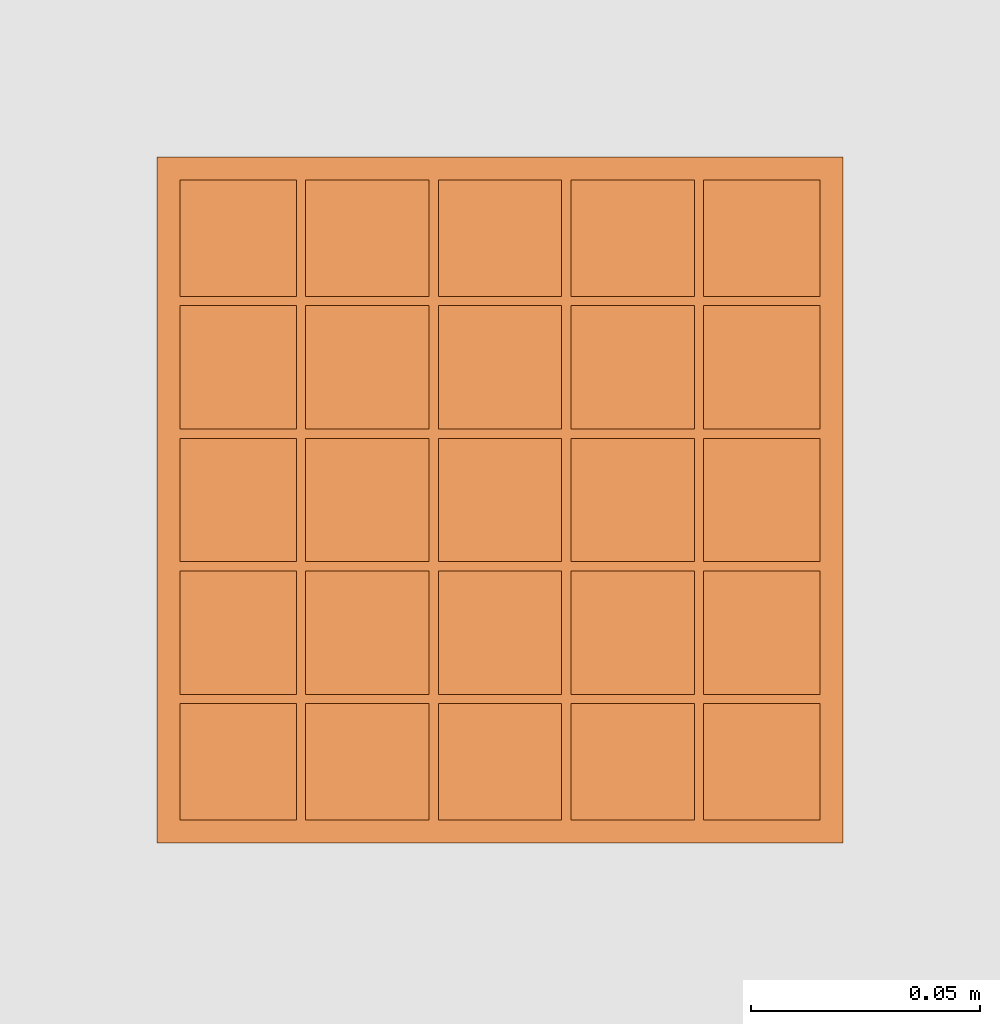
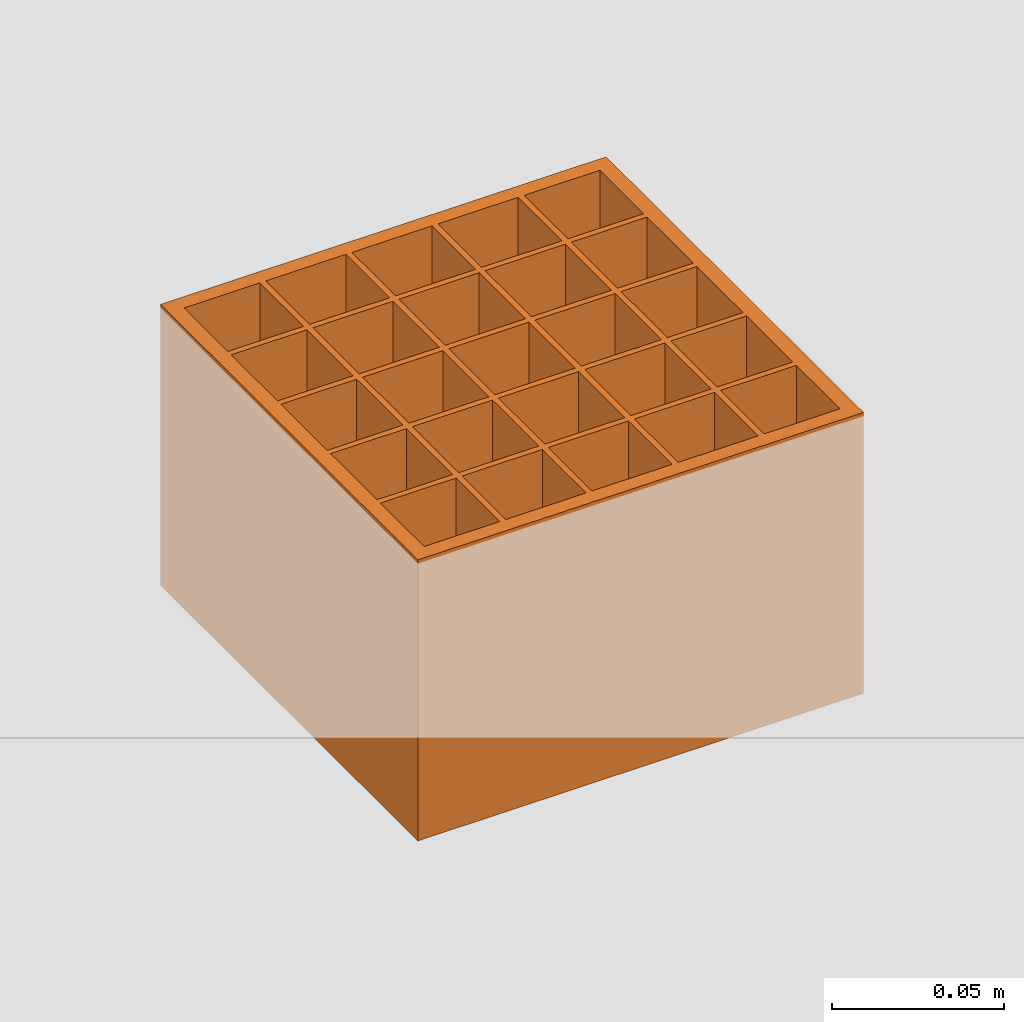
# One storey, part 85 of 112: 1 proxy.
"""IFC2X3 building model written with IfcOpenShell, lengths in millimetres."""

from ifc_helpers import new_model, entity, si_unit, converted_unit, derived_unit, money_unit, direction, frame, origin_with_axes, place, context, subcontext, project, spatial, faceted_brep, source, transform, mapped, type_object, element, save


model = new_model("IFC2X3")

# Units and contexts
model_context = context("Model", 3, precision=0.01, world=origin_with_axes(), true_north=direction((0.0, 1.0)))
body_context = subcontext(model_context, "Body", "Model", "MODEL_VIEW")
ifc_project = project(units=[si_unit("LENGTHUNIT", "METRE", prefix="MILLI"), si_unit("AREAUNIT", "SQUARE_METRE"), si_unit("VOLUMEUNIT", "CUBIC_METRE"), converted_unit("PLANEANGLEUNIT", "DEGREE", entity("IfcPlaneAngleMeasure", 0.0174532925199), si_unit("PLANEANGLEUNIT", "RADIAN"), dimensions=[0, 0, 0, 0, 0, 0, 0]), si_unit("SOLIDANGLEUNIT", "STERADIAN"), money_unit("EUR"), converted_unit("TIMEUNIT", "Year", entity("IfcTimeMeasure", 31556926.0), si_unit("TIMEUNIT", "SECOND"), dimensions=[0, 0, 1, 0, 0, 0, 0]), si_unit("MASSUNIT", "GRAM", prefix="KILO"), si_unit("THERMODYNAMICTEMPERATUREUNIT", "DEGREE_CELSIUS"), si_unit("LUMINOUSINTENSITYUNIT", "LUMEN"), si_unit("ENERGYUNIT", "JOULE", prefix="MEGA"), derived_unit("THERMALCONDUCTANCEUNIT", [(si_unit("POWERUNIT", "WATT"), 1), (si_unit("LENGTHUNIT", "METRE"), -1), (si_unit("THERMODYNAMICTEMPERATUREUNIT", "KELVIN"), -1)]), derived_unit("SPECIFICHEATCAPACITYUNIT", [(si_unit("ENERGYUNIT", "JOULE"), 1), (si_unit("MASSUNIT", "GRAM", prefix="KILO"), -1), (si_unit("THERMODYNAMICTEMPERATUREUNIT", "KELVIN"), -1)]), derived_unit("MASSDENSITYUNIT", [(si_unit("MASSUNIT", "GRAM", prefix="KILO"), 1), (si_unit("VOLUMEUNIT", "CUBIC_METRE"), -1)])], contexts=[model_context])

# Site, building, storey
site_placement = place(None, origin_with_axes())
site = spatial("IfcSite", under=ifc_project, at=site_placement, Name="Politse- ja Piirivalveameti ning Päästeameti ühishoone", CompositionType="ELEMENT")
building_placement = place(site_placement, origin_with_axes())
building = spatial("IfcBuilding", under=site, at=building_placement, Name="Politse- ja Piirivalveameti ning Päästeameti ühishoone", CompositionType="ELEMENT")
storey_placement = place(building_placement, origin_with_axes())
storey = spatial("IfcBuildingStorey", under=building, at=storey_placement, Name="Esimene korrus", CompositionType="ELEMENT", Elevation=0.0)

# Proxy
building_element_proxy_type = type_object("IfcBuildingElementProxyType", Name="Grid 23", PredefinedType="NOTDEFINED")
shared_shape = source(origin_with_axes(), body_context, "Body", "Brep", [
    faceted_brep([(0.0, 0.0, 0.0), (5.0, 5.0, 0.0), (5.0, 5.0, 100.0), (0.0, 0.0, 100.0), (0.0, 150.0, 0.0), (5.0, 145.0, 0.0), (5.0, 119.5, 0.0), (5.0, 117.5, 0.0), (5.0, 90.5, 0.0), (5.0, 88.5, 0.0), (5.0, 61.5, 0.0), (5.0, 59.5, 0.0), (5.0, 32.5, 0.0), (5.0, 30.5, 0.0), (5.0, 30.5, 100.0), (5.0, 32.5, 100.0), (5.0, 59.5, 100.0), (5.0, 61.5, 100.0), (5.0, 88.5, 100.0), (5.0, 90.5, 100.0), (5.0, 117.5, 100.0), (5.0, 119.5, 100.0), (5.0, 145.0, 100.0), (0.0, 150.0, 100.0)], [[[0, 1, 2, 3]], [[0, 4, 5, 6, 7, 8, 9, 10, 11, 12, 13, 1]], [[1, 13, 14, 2]], [[3, 2, 14, 15, 16, 17, 18, 19, 20, 21, 22, 23]], [[4, 0, 3, 23]], [[5, 4, 23, 22]], [[6, 5, 22, 21]], [[7, 6, 21, 20]], [[8, 7, 20, 19]], [[9, 8, 19, 18]], [[10, 9, 18, 17]], [[11, 10, 17, 16]], [[12, 11, 16, 15]], [[13, 12, 15, 14]]]),
    faceted_brep([(150.0, 150.0, 0.0), (145.0, 145.0, 0.0), (145.0, 145.0, 100.0), (150.0, 150.0, 100.0), (150.0, 0.0, 0.0), (145.0, 5.0, 0.0), (145.0, 30.5, 0.0), (145.0, 32.5, 0.0), (145.0, 59.5, 0.0), (145.0, 61.5, 0.0), (145.0, 88.5, 0.0), (145.0, 90.5, 0.0), (145.0, 117.5, 0.0), (145.0, 119.5, 0.0), (145.0, 119.5, 100.0), (145.0, 117.5, 100.0), (145.0, 90.5, 100.0), (145.0, 88.5, 100.0), (145.0, 61.5, 100.0), (145.0, 59.5, 100.0), (145.0, 32.5, 100.0), (145.0, 30.5, 100.0), (145.0, 5.0, 100.0), (150.0, 0.0, 100.0)], [[[0, 1, 2, 3]], [[0, 4, 5, 6, 7, 8, 9, 10, 11, 12, 13, 1]], [[1, 13, 14, 2]], [[3, 2, 14, 15, 16, 17, 18, 19, 20, 21, 22, 23]], [[4, 0, 3, 23]], [[5, 4, 23, 22]], [[6, 5, 22, 21]], [[7, 6, 21, 20]], [[8, 7, 20, 19]], [[9, 8, 19, 18]], [[10, 9, 18, 17]], [[11, 10, 17, 16]], [[12, 11, 16, 15]], [[13, 12, 15, 14]]]),
    faceted_brep([(150.0, 0.0, 0.0), (145.0, 5.0, 0.0), (145.0, 5.0, 100.0), (150.0, 0.0, 100.0), (0.0, 0.0, 0.0), (5.0, 5.0, 0.0), (30.5, 5.0, 0.0), (32.5, 5.0, 0.0), (59.5, 5.0, 0.0), (61.5, 5.0, 0.0), (88.5, 5.0, 0.0), (90.5, 5.0, 0.0), (117.5, 5.0, 0.0), (119.5, 5.0, 0.0), (119.5, 5.0, 100.0), (117.5, 5.0, 100.0), (90.5, 5.0, 100.0), (88.5, 5.0, 100.0), (61.5, 5.0, 100.0), (59.5, 5.0, 100.0), (32.5, 5.0, 100.0), (30.5, 5.0, 100.0), (5.0, 5.0, 100.0), (0.0, 0.0, 100.0)], [[[0, 1, 2, 3]], [[0, 4, 5, 6, 7, 8, 9, 10, 11, 12, 13, 1]], [[1, 13, 14, 2]], [[3, 2, 14, 15, 16, 17, 18, 19, 20, 21, 22, 23]], [[4, 0, 3, 23]], [[5, 4, 23, 22]], [[6, 5, 22, 21]], [[7, 6, 21, 20]], [[8, 7, 20, 19]], [[9, 8, 19, 18]], [[10, 9, 18, 17]], [[11, 10, 17, 16]], [[12, 11, 16, 15]], [[13, 12, 15, 14]]]),
    faceted_brep([(0.0, 150.0, 0.0), (5.0, 145.0, 0.0), (5.0, 145.0, 100.0), (0.0, 150.0, 100.0), (150.0, 150.0, 0.0), (145.0, 145.0, 0.0), (119.5, 145.0, 0.0), (117.5, 145.0, 0.0), (90.5, 145.0, 0.0), (88.5, 145.0, 0.0), (61.5, 145.0, 0.0), (59.5, 145.0, 0.0), (32.5, 145.0, 0.0), (30.5, 145.0, 0.0), (30.5, 145.0, 100.0), (32.5, 145.0, 100.0), (59.5, 145.0, 100.0), (61.5, 145.0, 100.0), (88.5, 145.0, 100.0), (90.5, 145.0, 100.0), (117.5, 145.0, 100.0), (119.5, 145.0, 100.0), (145.0, 145.0, 100.0), (150.0, 150.0, 100.0)], [[[0, 1, 2, 3]], [[0, 4, 5, 6, 7, 8, 9, 10, 11, 12, 13, 1]], [[1, 13, 14, 2]], [[3, 2, 14, 15, 16, 17, 18, 19, 20, 21, 22, 23]], [[4, 0, 3, 23]], [[5, 4, 23, 22]], [[6, 5, 22, 21]], [[7, 6, 21, 20]], [[8, 7, 20, 19]], [[9, 8, 19, 18]], [[10, 9, 18, 17]], [[11, 10, 17, 16]], [[12, 11, 16, 15]], [[13, 12, 15, 14]]]),
    faceted_brep([(30.5, 5.0, 0.0), (32.5, 5.0, 0.0), (32.5, 5.0, 100.0), (30.5, 5.0, 100.0), (30.5, 30.5, 0.0), (30.5, 32.5, 0.0), (30.5, 59.5, 0.0), (30.5, 61.5, 0.0), (30.5, 88.5, 0.0), (30.5, 90.5, 0.0), (30.5, 117.5, 0.0), (30.5, 119.5, 0.0), (30.5, 145.0, 0.0), (32.5, 145.0, 0.0), (32.5, 119.5, 0.0), (32.5, 117.5, 0.0), (32.5, 90.5, 0.0), (32.5, 88.5, 0.0), (32.5, 61.5, 0.0), (32.5, 59.5, 0.0), (32.5, 32.5, 0.0), (32.5, 30.5, 0.0), (32.5, 30.5, 100.0), (32.5, 32.5, 100.0), (32.5, 59.5, 100.0), (32.5, 61.5, 100.0), (32.5, 88.5, 100.0), (32.5, 90.5, 100.0), (32.5, 117.5, 100.0), (32.5, 119.5, 100.0), (32.5, 145.0, 100.0), (30.5, 145.0, 100.0), (30.5, 119.5, 100.0), (30.5, 117.5, 100.0), (30.5, 90.5, 100.0), (30.5, 88.5, 100.0), (30.5, 61.5, 100.0), (30.5, 59.5, 100.0), (30.5, 32.5, 100.0), (30.5, 30.5, 100.0)], [[[0, 1, 2, 3]], [[0, 4, 5, 6, 7, 8, 9, 10, 11, 12, 13, 14, 15, 16, 17, 18, 19, 20, 21, 1]], [[1, 21, 22, 2]], [[3, 2, 22, 23, 24, 25, 26, 27, 28, 29, 30, 31, 32, 33, 34, 35, 36, 37, 38, 39]], [[4, 0, 3, 39]], [[5, 4, 39, 38]], [[6, 5, 38, 37]], [[7, 6, 37, 36]], [[8, 7, 36, 35]], [[9, 8, 35, 34]], [[10, 9, 34, 33]], [[11, 10, 33, 32]], [[12, 11, 32, 31]], [[13, 12, 31, 30]], [[14, 13, 30, 29]], [[15, 14, 29, 28]], [[16, 15, 28, 27]], [[17, 16, 27, 26]], [[18, 17, 26, 25]], [[19, 18, 25, 24]], [[20, 19, 24, 23]], [[21, 20, 23, 22]]]),
    faceted_brep([(59.5, 5.0, 0.0), (61.5, 5.0, 0.0), (61.5, 5.0, 100.0), (59.5, 5.0, 100.0), (59.5, 30.5, 0.0), (59.5, 32.5, 0.0), (59.5, 59.5, 0.0), (59.5, 61.5, 0.0), (59.5, 88.5, 0.0), (59.5, 90.5, 0.0), (59.5, 117.5, 0.0), (59.5, 119.5, 0.0), (59.5, 145.0, 0.0), (61.5, 145.0, 0.0), (61.5, 119.5, 0.0), (61.5, 117.5, 0.0), (61.5, 90.5, 0.0), (61.5, 88.5, 0.0), (61.5, 61.5, 0.0), (61.5, 59.5, 0.0), (61.5, 32.5, 0.0), (61.5, 30.5, 0.0), (61.5, 30.5, 100.0), (61.5, 32.5, 100.0), (61.5, 59.5, 100.0), (61.5, 61.5, 100.0), (61.5, 88.5, 100.0), (61.5, 90.5, 100.0), (61.5, 117.5, 100.0), (61.5, 119.5, 100.0), (61.5, 145.0, 100.0), (59.5, 145.0, 100.0), (59.5, 119.5, 100.0), (59.5, 117.5, 100.0), (59.5, 90.5, 100.0), (59.5, 88.5, 100.0), (59.5, 61.5, 100.0), (59.5, 59.5, 100.0), (59.5, 32.5, 100.0), (59.5, 30.5, 100.0)], [[[0, 1, 2, 3]], [[0, 4, 5, 6, 7, 8, 9, 10, 11, 12, 13, 14, 15, 16, 17, 18, 19, 20, 21, 1]], [[1, 21, 22, 2]], [[3, 2, 22, 23, 24, 25, 26, 27, 28, 29, 30, 31, 32, 33, 34, 35, 36, 37, 38, 39]], [[4, 0, 3, 39]], [[5, 4, 39, 38]], [[6, 5, 38, 37]], [[7, 6, 37, 36]], [[8, 7, 36, 35]], [[9, 8, 35, 34]], [[10, 9, 34, 33]], [[11, 10, 33, 32]], [[12, 11, 32, 31]], [[13, 12, 31, 30]], [[14, 13, 30, 29]], [[15, 14, 29, 28]], [[16, 15, 28, 27]], [[17, 16, 27, 26]], [[18, 17, 26, 25]], [[19, 18, 25, 24]], [[20, 19, 24, 23]], [[21, 20, 23, 22]]]),
    faceted_brep([(88.5, 5.0, 0.0), (90.5, 5.0, 0.0), (90.5, 5.0, 100.0), (88.5, 5.0, 100.0), (88.5, 30.5, 0.0), (88.5, 32.5, 0.0), (88.5, 59.5, 0.0), (88.5, 61.5, 0.0), (88.5, 88.5, 0.0), (88.5, 90.5, 0.0), (88.5, 117.5, 0.0), (88.5, 119.5, 0.0), (88.5, 145.0, 0.0), (90.5, 145.0, 0.0), (90.5, 119.5, 0.0), (90.5, 117.5, 0.0), (90.5, 90.5, 0.0), (90.5, 88.5, 0.0), (90.5, 61.5, 0.0), (90.5, 59.5, 0.0), (90.5, 32.5, 0.0), (90.5, 30.5, 0.0), (90.5, 30.5, 100.0), (90.5, 32.5, 100.0), (90.5, 59.5, 100.0), (90.5, 61.5, 100.0), (90.5, 88.5, 100.0), (90.5, 90.5, 100.0), (90.5, 117.5, 100.0), (90.5, 119.5, 100.0), (90.5, 145.0, 100.0), (88.5, 145.0, 100.0), (88.5, 119.5, 100.0), (88.5, 117.5, 100.0), (88.5, 90.5, 100.0), (88.5, 88.5, 100.0), (88.5, 61.5, 100.0), (88.5, 59.5, 100.0), (88.5, 32.5, 100.0), (88.5, 30.5, 100.0)], [[[0, 1, 2, 3]], [[0, 4, 5, 6, 7, 8, 9, 10, 11, 12, 13, 14, 15, 16, 17, 18, 19, 20, 21, 1]], [[1, 21, 22, 2]], [[3, 2, 22, 23, 24, 25, 26, 27, 28, 29, 30, 31, 32, 33, 34, 35, 36, 37, 38, 39]], [[4, 0, 3, 39]], [[5, 4, 39, 38]], [[6, 5, 38, 37]], [[7, 6, 37, 36]], [[8, 7, 36, 35]], [[9, 8, 35, 34]], [[10, 9, 34, 33]], [[11, 10, 33, 32]], [[12, 11, 32, 31]], [[13, 12, 31, 30]], [[14, 13, 30, 29]], [[15, 14, 29, 28]], [[16, 15, 28, 27]], [[17, 16, 27, 26]], [[18, 17, 26, 25]], [[19, 18, 25, 24]], [[20, 19, 24, 23]], [[21, 20, 23, 22]]]),
    faceted_brep([(117.5, 5.0, 0.0), (119.5, 5.0, 0.0), (119.5, 5.0, 100.0), (117.5, 5.0, 100.0), (117.5, 30.5, 0.0), (117.5, 32.5, 0.0), (117.5, 59.5, 0.0), (117.5, 61.5, 0.0), (117.5, 88.5, 0.0), (117.5, 90.5, 0.0), (117.5, 117.5, 0.0), (117.5, 119.5, 0.0), (117.5, 145.0, 0.0), (119.5, 145.0, 0.0), (119.5, 119.5, 0.0), (119.5, 117.5, 0.0), (119.5, 90.5, 0.0), (119.5, 88.5, 0.0), (119.5, 61.5, 0.0), (119.5, 59.5, 0.0), (119.5, 32.5, 0.0), (119.5, 30.5, 0.0), (119.5, 30.5, 100.0), (119.5, 32.5, 100.0), (119.5, 59.5, 100.0), (119.5, 61.5, 100.0), (119.5, 88.5, 100.0), (119.5, 90.5, 100.0), (119.5, 117.5, 100.0), (119.5, 119.5, 100.0), (119.5, 145.0, 100.0), (117.5, 145.0, 100.0), (117.5, 119.5, 100.0), (117.5, 117.5, 100.0), (117.5, 90.5, 100.0), (117.5, 88.5, 100.0), (117.5, 61.5, 100.0), (117.5, 59.5, 100.0), (117.5, 32.5, 100.0), (117.5, 30.5, 100.0)], [[[0, 1, 2, 3]], [[0, 4, 5, 6, 7, 8, 9, 10, 11, 12, 13, 14, 15, 16, 17, 18, 19, 20, 21, 1]], [[1, 21, 22, 2]], [[3, 2, 22, 23, 24, 25, 26, 27, 28, 29, 30, 31, 32, 33, 34, 35, 36, 37, 38, 39]], [[4, 0, 3, 39]], [[5, 4, 39, 38]], [[6, 5, 38, 37]], [[7, 6, 37, 36]], [[8, 7, 36, 35]], [[9, 8, 35, 34]], [[10, 9, 34, 33]], [[11, 10, 33, 32]], [[12, 11, 32, 31]], [[13, 12, 31, 30]], [[14, 13, 30, 29]], [[15, 14, 29, 28]], [[16, 15, 28, 27]], [[17, 16, 27, 26]], [[18, 17, 26, 25]], [[19, 18, 25, 24]], [[20, 19, 24, 23]], [[21, 20, 23, 22]]]),
    faceted_brep([(30.5, 30.5, 0.0), (30.5, 32.5, 0.0), (30.5, 32.5, 100.0), (30.5, 30.5, 100.0), (5.0, 30.5, 0.0), (5.0, 32.5, 0.0), (5.0, 32.5, 100.0), (5.0, 30.5, 100.0)], [[[0, 1, 2, 3]], [[0, 4, 5, 1]], [[1, 5, 6, 2]], [[3, 2, 6, 7]], [[4, 0, 3, 7]], [[5, 4, 7, 6]]]),
    faceted_brep([(30.5, 59.5, 0.0), (30.5, 61.5, 0.0), (30.5, 61.5, 100.0), (30.5, 59.5, 100.0), (5.0, 59.5, 0.0), (5.0, 61.5, 0.0), (5.0, 61.5, 100.0), (5.0, 59.5, 100.0)], [[[0, 1, 2, 3]], [[0, 4, 5, 1]], [[1, 5, 6, 2]], [[3, 2, 6, 7]], [[4, 0, 3, 7]], [[5, 4, 7, 6]]]),
    faceted_brep([(30.5, 88.5, 0.0), (30.5, 90.5, 0.0), (30.5, 90.5, 100.0), (30.5, 88.5, 100.0), (5.0, 88.5, 0.0), (5.0, 90.5, 0.0), (5.0, 90.5, 100.0), (5.0, 88.5, 100.0)], [[[0, 1, 2, 3]], [[0, 4, 5, 1]], [[1, 5, 6, 2]], [[3, 2, 6, 7]], [[4, 0, 3, 7]], [[5, 4, 7, 6]]]),
    faceted_brep([(30.5, 117.5, 0.0), (30.5, 119.5, 0.0), (30.5, 119.5, 100.0), (30.5, 117.5, 100.0), (5.0, 117.5, 0.0), (5.0, 119.5, 0.0), (5.0, 119.5, 100.0), (5.0, 117.5, 100.0)], [[[0, 1, 2, 3]], [[0, 4, 5, 1]], [[1, 5, 6, 2]], [[3, 2, 6, 7]], [[4, 0, 3, 7]], [[5, 4, 7, 6]]]),
    faceted_brep([(59.5, 30.5, 0.0), (59.5, 32.5, 0.0), (59.5, 32.5, 100.0), (59.5, 30.5, 100.0), (32.5, 30.5, 0.0), (32.5, 32.5, 0.0), (32.5, 32.5, 100.0), (32.5, 30.5, 100.0)], [[[0, 1, 2, 3]], [[0, 4, 5, 1]], [[1, 5, 6, 2]], [[3, 2, 6, 7]], [[4, 0, 3, 7]], [[5, 4, 7, 6]]]),
    faceted_brep([(59.5, 59.5, 0.0), (59.5, 61.5, 0.0), (59.5, 61.5, 100.0), (59.5, 59.5, 100.0), (32.5, 59.5, 0.0), (32.5, 61.5, 0.0), (32.5, 61.5, 100.0), (32.5, 59.5, 100.0)], [[[0, 1, 2, 3]], [[0, 4, 5, 1]], [[1, 5, 6, 2]], [[3, 2, 6, 7]], [[4, 0, 3, 7]], [[5, 4, 7, 6]]]),
    faceted_brep([(59.5, 88.5, 0.0), (59.5, 90.5, 0.0), (59.5, 90.5, 100.0), (59.5, 88.5, 100.0), (32.5, 88.5, 0.0), (32.5, 90.5, 0.0), (32.5, 90.5, 100.0), (32.5, 88.5, 100.0)], [[[0, 1, 2, 3]], [[0, 4, 5, 1]], [[1, 5, 6, 2]], [[3, 2, 6, 7]], [[4, 0, 3, 7]], [[5, 4, 7, 6]]]),
    faceted_brep([(59.5, 117.5, 0.0), (59.5, 119.5, 0.0), (59.5, 119.5, 100.0), (59.5, 117.5, 100.0), (32.5, 117.5, 0.0), (32.5, 119.5, 0.0), (32.5, 119.5, 100.0), (32.5, 117.5, 100.0)], [[[0, 1, 2, 3]], [[0, 4, 5, 1]], [[1, 5, 6, 2]], [[3, 2, 6, 7]], [[4, 0, 3, 7]], [[5, 4, 7, 6]]]),
    faceted_brep([(88.5, 30.5, 0.0), (88.5, 32.5, 0.0), (88.5, 32.5, 100.0), (88.5, 30.5, 100.0), (61.5, 30.5, 0.0), (61.5, 32.5, 0.0), (61.5, 32.5, 100.0), (61.5, 30.5, 100.0)], [[[0, 1, 2, 3]], [[0, 4, 5, 1]], [[1, 5, 6, 2]], [[3, 2, 6, 7]], [[4, 0, 3, 7]], [[5, 4, 7, 6]]]),
    faceted_brep([(88.5, 59.5, 0.0), (88.5, 61.5, 0.0), (88.5, 61.5, 100.0), (88.5, 59.5, 100.0), (61.5, 59.5, 0.0), (61.5, 61.5, 0.0), (61.5, 61.5, 100.0), (61.5, 59.5, 100.0)], [[[0, 1, 2, 3]], [[0, 4, 5, 1]], [[1, 5, 6, 2]], [[3, 2, 6, 7]], [[4, 0, 3, 7]], [[5, 4, 7, 6]]]),
    faceted_brep([(88.5, 88.5, 0.0), (88.5, 90.5, 0.0), (88.5, 90.5, 100.0), (88.5, 88.5, 100.0), (61.5, 88.5, 0.0), (61.5, 90.5, 0.0), (61.5, 90.5, 100.0), (61.5, 88.5, 100.0)], [[[0, 1, 2, 3]], [[0, 4, 5, 1]], [[1, 5, 6, 2]], [[3, 2, 6, 7]], [[4, 0, 3, 7]], [[5, 4, 7, 6]]]),
    faceted_brep([(88.5, 117.5, 0.0), (88.5, 119.5, 0.0), (88.5, 119.5, 100.0), (88.5, 117.5, 100.0), (61.5, 117.5, 0.0), (61.5, 119.5, 0.0), (61.5, 119.5, 100.0), (61.5, 117.5, 100.0)], [[[0, 1, 2, 3]], [[0, 4, 5, 1]], [[1, 5, 6, 2]], [[3, 2, 6, 7]], [[4, 0, 3, 7]], [[5, 4, 7, 6]]]),
    faceted_brep([(117.5, 30.5, 0.0), (117.5, 32.5, 0.0), (117.5, 32.5, 100.0), (117.5, 30.5, 100.0), (90.5, 30.5, 0.0), (90.5, 32.5, 0.0), (90.5, 32.5, 100.0), (90.5, 30.5, 100.0)], [[[0, 1, 2, 3]], [[0, 4, 5, 1]], [[1, 5, 6, 2]], [[3, 2, 6, 7]], [[4, 0, 3, 7]], [[5, 4, 7, 6]]]),
    faceted_brep([(117.5, 59.5, 0.0), (117.5, 61.5, 0.0), (117.5, 61.5, 100.0), (117.5, 59.5, 100.0), (90.5, 59.5, 0.0), (90.5, 61.5, 0.0), (90.5, 61.5, 100.0), (90.5, 59.5, 100.0)], [[[0, 1, 2, 3]], [[0, 4, 5, 1]], [[1, 5, 6, 2]], [[3, 2, 6, 7]], [[4, 0, 3, 7]], [[5, 4, 7, 6]]]),
    faceted_brep([(117.5, 88.5, 0.0), (117.5, 90.5, 0.0), (117.5, 90.5, 100.0), (117.5, 88.5, 100.0), (90.5, 88.5, 0.0), (90.5, 90.5, 0.0), (90.5, 90.5, 100.0), (90.5, 88.5, 100.0)], [[[0, 1, 2, 3]], [[0, 4, 5, 1]], [[1, 5, 6, 2]], [[3, 2, 6, 7]], [[4, 0, 3, 7]], [[5, 4, 7, 6]]]),
    faceted_brep([(117.5, 117.5, 0.0), (117.5, 119.5, 0.0), (117.5, 119.5, 100.0), (117.5, 117.5, 100.0), (90.5, 117.5, 0.0), (90.5, 119.5, 0.0), (90.5, 119.5, 100.0), (90.5, 117.5, 100.0)], [[[0, 1, 2, 3]], [[0, 4, 5, 1]], [[1, 5, 6, 2]], [[3, 2, 6, 7]], [[4, 0, 3, 7]], [[5, 4, 7, 6]]]),
    faceted_brep([(145.0, 30.5, 0.0), (145.0, 32.5, 0.0), (145.0, 32.5, 100.0), (145.0, 30.5, 100.0), (119.5, 30.5, 0.0), (119.5, 32.5, 0.0), (119.5, 32.5, 100.0), (119.5, 30.5, 100.0)], [[[0, 1, 2, 3]], [[0, 4, 5, 1]], [[1, 5, 6, 2]], [[3, 2, 6, 7]], [[4, 0, 3, 7]], [[5, 4, 7, 6]]]),
    faceted_brep([(145.0, 59.5, 0.0), (145.0, 61.5, 0.0), (145.0, 61.5, 100.0), (145.0, 59.5, 100.0), (119.5, 59.5, 0.0), (119.5, 61.5, 0.0), (119.5, 61.5, 100.0), (119.5, 59.5, 100.0)], [[[0, 1, 2, 3]], [[0, 4, 5, 1]], [[1, 5, 6, 2]], [[3, 2, 6, 7]], [[4, 0, 3, 7]], [[5, 4, 7, 6]]]),
    faceted_brep([(145.0, 88.5, 0.0), (145.0, 90.5, 0.0), (145.0, 90.5, 100.0), (145.0, 88.5, 100.0), (119.5, 88.5, 0.0), (119.5, 90.5, 0.0), (119.5, 90.5, 100.0), (119.5, 88.5, 100.0)], [[[0, 1, 2, 3]], [[0, 4, 5, 1]], [[1, 5, 6, 2]], [[3, 2, 6, 7]], [[4, 0, 3, 7]], [[5, 4, 7, 6]]]),
    faceted_brep([(145.0, 117.5, 0.0), (145.0, 119.5, 0.0), (145.0, 119.5, 100.0), (145.0, 117.5, 100.0), (119.5, 117.5, 0.0), (119.5, 119.5, 0.0), (119.5, 119.5, 100.0), (119.5, 117.5, 100.0)], [[[0, 1, 2, 3]], [[0, 4, 5, 1]], [[1, 5, 6, 2]], [[3, 2, 6, 7]], [[4, 0, 3, 7]], [[5, 4, 7, 6]]]),
    faceted_brep([(5.0, 5.0, 43.65), (30.5, 5.0, 43.65), (30.5, 5.0, 56.35), (5.0, 5.0, 56.35), (5.0, 30.5, 43.65), (30.5, 30.5, 43.65), (30.5, 30.5, 56.35), (5.0, 30.5, 56.35)], [[[0, 1, 2, 3]], [[0, 4, 5, 1]], [[1, 5, 6, 2]], [[3, 2, 6, 7]], [[4, 0, 3, 7]], [[5, 4, 7, 6]]]),
    faceted_brep([(5.0, 32.5, 43.65), (30.5, 32.5, 43.65), (30.5, 32.5, 56.35), (5.0, 32.5, 56.35), (5.0, 59.5, 43.65), (30.5, 59.5, 43.65), (30.5, 59.5, 56.35), (5.0, 59.5, 56.35)], [[[0, 1, 2, 3]], [[0, 4, 5, 1]], [[1, 5, 6, 2]], [[3, 2, 6, 7]], [[4, 0, 3, 7]], [[5, 4, 7, 6]]]),
    faceted_brep([(5.0, 61.5, 43.65), (30.5, 61.5, 43.65), (30.5, 61.5, 56.35), (5.0, 61.5, 56.35), (5.0, 88.5, 43.65), (30.5, 88.5, 43.65), (30.5, 88.5, 56.35), (5.0, 88.5, 56.35)], [[[0, 1, 2, 3]], [[0, 4, 5, 1]], [[1, 5, 6, 2]], [[3, 2, 6, 7]], [[4, 0, 3, 7]], [[5, 4, 7, 6]]]),
    faceted_brep([(5.0, 90.5, 43.65), (30.5, 90.5, 43.65), (30.5, 90.5, 56.35), (5.0, 90.5, 56.35), (5.0, 117.5, 43.65), (30.5, 117.5, 43.65), (30.5, 117.5, 56.35), (5.0, 117.5, 56.35)], [[[0, 1, 2, 3]], [[0, 4, 5, 1]], [[1, 5, 6, 2]], [[3, 2, 6, 7]], [[4, 0, 3, 7]], [[5, 4, 7, 6]]]),
    faceted_brep([(5.0, 119.5, 43.65), (30.5, 119.5, 43.65), (30.5, 119.5, 56.35), (5.0, 119.5, 56.35), (5.0, 145.0, 43.65), (30.5, 145.0, 43.65), (30.5, 145.0, 56.35), (5.0, 145.0, 56.35)], [[[0, 1, 2, 3]], [[0, 4, 5, 1]], [[1, 5, 6, 2]], [[3, 2, 6, 7]], [[4, 0, 3, 7]], [[5, 4, 7, 6]]]),
    faceted_brep([(32.5, 5.0, 43.65), (59.5, 5.0, 43.65), (59.5, 5.0, 56.35), (32.5, 5.0, 56.35), (32.5, 30.5, 43.65), (59.5, 30.5, 43.65), (59.5, 30.5, 56.35), (32.5, 30.5, 56.35)], [[[0, 1, 2, 3]], [[0, 4, 5, 1]], [[1, 5, 6, 2]], [[3, 2, 6, 7]], [[4, 0, 3, 7]], [[5, 4, 7, 6]]]),
    faceted_brep([(32.5, 32.5, 43.65), (59.5, 32.5, 43.65), (59.5, 32.5, 56.35), (32.5, 32.5, 56.35), (32.5, 59.5, 43.65), (59.5, 59.5, 43.65), (59.5, 59.5, 56.35), (32.5, 59.5, 56.35)], [[[0, 1, 2, 3]], [[0, 4, 5, 1]], [[1, 5, 6, 2]], [[3, 2, 6, 7]], [[4, 0, 3, 7]], [[5, 4, 7, 6]]]),
    faceted_brep([(32.5, 61.5, 43.65), (59.5, 61.5, 43.65), (59.5, 61.5, 56.35), (32.5, 61.5, 56.35), (32.5, 88.5, 43.65), (59.5, 88.5, 43.65), (59.5, 88.5, 56.35), (32.5, 88.5, 56.35)], [[[0, 1, 2, 3]], [[0, 4, 5, 1]], [[1, 5, 6, 2]], [[3, 2, 6, 7]], [[4, 0, 3, 7]], [[5, 4, 7, 6]]]),
    faceted_brep([(32.5, 90.5, 43.65), (59.5, 90.5, 43.65), (59.5, 90.5, 56.35), (32.5, 90.5, 56.35), (32.5, 117.5, 43.65), (59.5, 117.5, 43.65), (59.5, 117.5, 56.35), (32.5, 117.5, 56.35)], [[[0, 1, 2, 3]], [[0, 4, 5, 1]], [[1, 5, 6, 2]], [[3, 2, 6, 7]], [[4, 0, 3, 7]], [[5, 4, 7, 6]]]),
    faceted_brep([(32.5, 119.5, 43.65), (59.5, 119.5, 43.65), (59.5, 119.5, 56.35), (32.5, 119.5, 56.35), (32.5, 145.0, 43.65), (59.5, 145.0, 43.65), (59.5, 145.0, 56.35), (32.5, 145.0, 56.35)], [[[0, 1, 2, 3]], [[0, 4, 5, 1]], [[1, 5, 6, 2]], [[3, 2, 6, 7]], [[4, 0, 3, 7]], [[5, 4, 7, 6]]]),
    faceted_brep([(61.5, 5.0, 43.65), (88.5, 5.0, 43.65), (88.5, 5.0, 56.35), (61.5, 5.0, 56.35), (61.5, 30.5, 43.65), (88.5, 30.5, 43.65), (88.5, 30.5, 56.35), (61.5, 30.5, 56.35)], [[[0, 1, 2, 3]], [[0, 4, 5, 1]], [[1, 5, 6, 2]], [[3, 2, 6, 7]], [[4, 0, 3, 7]], [[5, 4, 7, 6]]]),
    faceted_brep([(61.5, 32.5, 43.65), (88.5, 32.5, 43.65), (88.5, 32.5, 56.35), (61.5, 32.5, 56.35), (61.5, 59.5, 43.65), (88.5, 59.5, 43.65), (88.5, 59.5, 56.35), (61.5, 59.5, 56.35)], [[[0, 1, 2, 3]], [[0, 4, 5, 1]], [[1, 5, 6, 2]], [[3, 2, 6, 7]], [[4, 0, 3, 7]], [[5, 4, 7, 6]]]),
    faceted_brep([(61.5, 61.5, 43.65), (88.5, 61.5, 43.65), (88.5, 61.5, 56.35), (61.5, 61.5, 56.35), (61.5, 88.5, 43.65), (88.5, 88.5, 43.65), (88.5, 88.5, 56.35), (61.5, 88.5, 56.35)], [[[0, 1, 2, 3]], [[0, 4, 5, 1]], [[1, 5, 6, 2]], [[3, 2, 6, 7]], [[4, 0, 3, 7]], [[5, 4, 7, 6]]]),
    faceted_brep([(61.5, 90.5, 43.65), (88.5, 90.5, 43.65), (88.5, 90.5, 56.35), (61.5, 90.5, 56.35), (61.5, 117.5, 43.65), (88.5, 117.5, 43.65), (88.5, 117.5, 56.35), (61.5, 117.5, 56.35)], [[[0, 1, 2, 3]], [[0, 4, 5, 1]], [[1, 5, 6, 2]], [[3, 2, 6, 7]], [[4, 0, 3, 7]], [[5, 4, 7, 6]]]),
    faceted_brep([(61.5, 119.5, 43.65), (88.5, 119.5, 43.65), (88.5, 119.5, 56.35), (61.5, 119.5, 56.35), (61.5, 145.0, 43.65), (88.5, 145.0, 43.65), (88.5, 145.0, 56.35), (61.5, 145.0, 56.35)], [[[0, 1, 2, 3]], [[0, 4, 5, 1]], [[1, 5, 6, 2]], [[3, 2, 6, 7]], [[4, 0, 3, 7]], [[5, 4, 7, 6]]]),
    faceted_brep([(90.5, 5.0, 43.65), (117.5, 5.0, 43.65), (117.5, 5.0, 56.35), (90.5, 5.0, 56.35), (90.5, 30.5, 43.65), (117.5, 30.5, 43.65), (117.5, 30.5, 56.35), (90.5, 30.5, 56.35)], [[[0, 1, 2, 3]], [[0, 4, 5, 1]], [[1, 5, 6, 2]], [[3, 2, 6, 7]], [[4, 0, 3, 7]], [[5, 4, 7, 6]]]),
    faceted_brep([(90.5, 32.5, 43.65), (117.5, 32.5, 43.65), (117.5, 32.5, 56.35), (90.5, 32.5, 56.35), (90.5, 59.5, 43.65), (117.5, 59.5, 43.65), (117.5, 59.5, 56.35), (90.5, 59.5, 56.35)], [[[0, 1, 2, 3]], [[0, 4, 5, 1]], [[1, 5, 6, 2]], [[3, 2, 6, 7]], [[4, 0, 3, 7]], [[5, 4, 7, 6]]]),
    faceted_brep([(90.5, 61.5, 43.65), (117.5, 61.5, 43.65), (117.5, 61.5, 56.35), (90.5, 61.5, 56.35), (90.5, 88.5, 43.65), (117.5, 88.5, 43.65), (117.5, 88.5, 56.35), (90.5, 88.5, 56.35)], [[[0, 1, 2, 3]], [[0, 4, 5, 1]], [[1, 5, 6, 2]], [[3, 2, 6, 7]], [[4, 0, 3, 7]], [[5, 4, 7, 6]]]),
    faceted_brep([(90.5, 90.5, 43.65), (117.5, 90.5, 43.65), (117.5, 90.5, 56.35), (90.5, 90.5, 56.35), (90.5, 117.5, 43.65), (117.5, 117.5, 43.65), (117.5, 117.5, 56.35), (90.5, 117.5, 56.35)], [[[0, 1, 2, 3]], [[0, 4, 5, 1]], [[1, 5, 6, 2]], [[3, 2, 6, 7]], [[4, 0, 3, 7]], [[5, 4, 7, 6]]]),
    faceted_brep([(90.5, 119.5, 43.65), (117.5, 119.5, 43.65), (117.5, 119.5, 56.35), (90.5, 119.5, 56.35), (90.5, 145.0, 43.65), (117.5, 145.0, 43.65), (117.5, 145.0, 56.35), (90.5, 145.0, 56.35)], [[[0, 1, 2, 3]], [[0, 4, 5, 1]], [[1, 5, 6, 2]], [[3, 2, 6, 7]], [[4, 0, 3, 7]], [[5, 4, 7, 6]]]),
    faceted_brep([(119.5, 5.0, 43.65), (145.0, 5.0, 43.65), (145.0, 5.0, 56.35), (119.5, 5.0, 56.35), (119.5, 30.5, 43.65), (145.0, 30.5, 43.65), (145.0, 30.5, 56.35), (119.5, 30.5, 56.35)], [[[0, 1, 2, 3]], [[0, 4, 5, 1]], [[1, 5, 6, 2]], [[3, 2, 6, 7]], [[4, 0, 3, 7]], [[5, 4, 7, 6]]]),
    faceted_brep([(119.5, 32.5, 43.65), (145.0, 32.5, 43.65), (145.0, 32.5, 56.35), (119.5, 32.5, 56.35), (119.5, 59.5, 43.65), (145.0, 59.5, 43.65), (145.0, 59.5, 56.35), (119.5, 59.5, 56.35)], [[[0, 1, 2, 3]], [[0, 4, 5, 1]], [[1, 5, 6, 2]], [[3, 2, 6, 7]], [[4, 0, 3, 7]], [[5, 4, 7, 6]]]),
    faceted_brep([(119.5, 61.5, 43.65), (145.0, 61.5, 43.65), (145.0, 61.5, 56.35), (119.5, 61.5, 56.35), (119.5, 88.5, 43.65), (145.0, 88.5, 43.65), (145.0, 88.5, 56.35), (119.5, 88.5, 56.35)], [[[0, 1, 2, 3]], [[0, 4, 5, 1]], [[1, 5, 6, 2]], [[3, 2, 6, 7]], [[4, 0, 3, 7]], [[5, 4, 7, 6]]]),
    faceted_brep([(119.5, 90.5, 43.65), (145.0, 90.5, 43.65), (145.0, 90.5, 56.35), (119.5, 90.5, 56.35), (119.5, 117.5, 43.65), (145.0, 117.5, 43.65), (145.0, 117.5, 56.35), (119.5, 117.5, 56.35)], [[[0, 1, 2, 3]], [[0, 4, 5, 1]], [[1, 5, 6, 2]], [[3, 2, 6, 7]], [[4, 0, 3, 7]], [[5, 4, 7, 6]]]),
    faceted_brep([(119.5, 119.5, 43.65), (145.0, 119.5, 43.65), (145.0, 119.5, 56.35), (119.5, 119.5, 56.35), (119.5, 145.0, 43.65), (145.0, 145.0, 43.65), (145.0, 145.0, 56.35), (119.5, 145.0, 56.35)], [[[0, 1, 2, 3]], [[0, 4, 5, 1]], [[1, 5, 6, 2]], [[3, 2, 6, 7]], [[4, 0, 3, 7]], [[5, 4, 7, 6]]]),
])
proxy_placement = place(storey_placement, frame((19607.677259, 4402.69233354, -100.0), z_axis=(0.0, 0.0, 1.0), x_axis=(1.0, 0.0, 0.0)))
element("IfcBuildingElementProxy", 1, at=proxy_placement, inside=storey, type_object=building_element_proxy_type, Name="Trapp (109)", context=body_context, shape_type="MappedRepresentation", body=[
    mapped(shared_shape, transform((0.0, 0.0, 0.0))),
])

save(model, "model.ifc")
